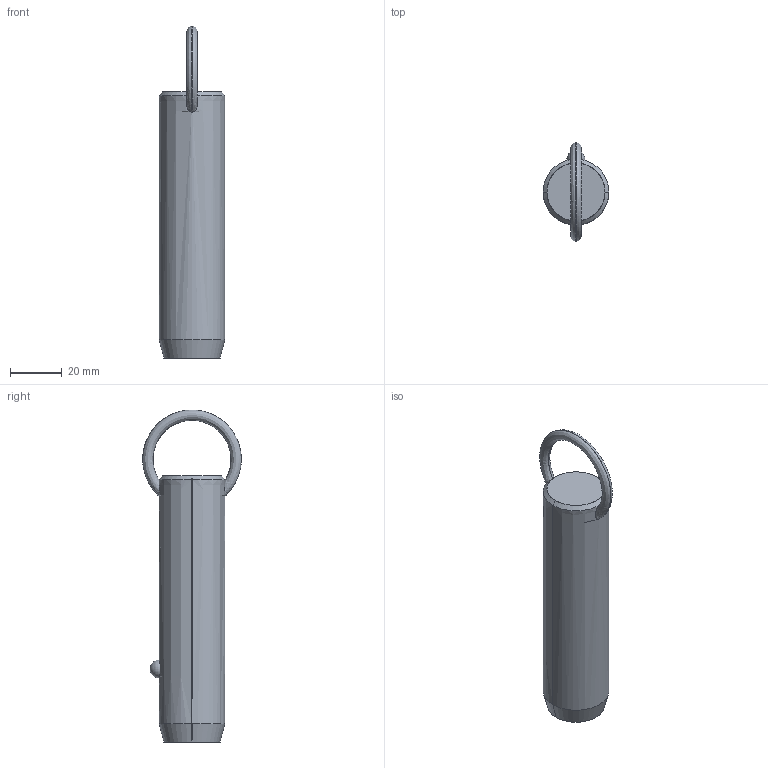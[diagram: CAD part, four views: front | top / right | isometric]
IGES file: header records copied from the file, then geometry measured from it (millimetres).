
Start section: SolidWorks IGES file using analytic representation for surfaces
Global section: file name: C:\Users\liam_\OneDrive\Documents\WORK\Work for WixRoyd\Job Files\J-00019 - Matt Davis CAD Checking\04. CAD Drawings\automotion20190605\P1250.2_v2\P1250.2_v2_20190729_IGES\P1250.100-230.igs; native system: SolidWorks 2017; preprocessor: SolidWorks 2017; author: liam_; date: 190730.173527; units: millimetre
Bounding box: 25.4 x 38.09 x 128.19 mm (x, y, z)
Surface area: 9976.4 mm2 (no closed solid volume)
Topology: 0 solids, 0 shells, 12 faces, 298 edges, 296 vertices
Faces by surface type: revolution 8, bspline 4
